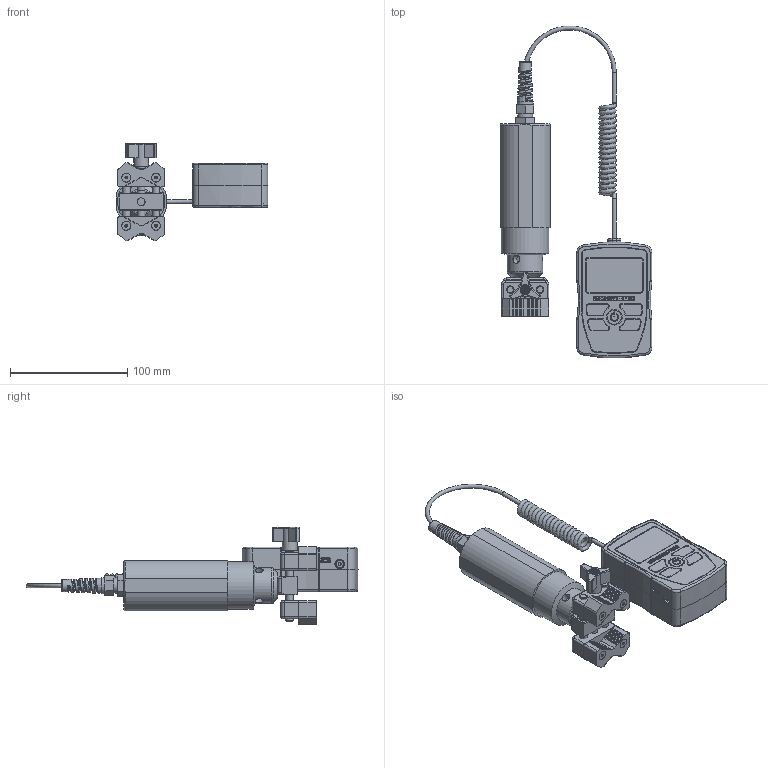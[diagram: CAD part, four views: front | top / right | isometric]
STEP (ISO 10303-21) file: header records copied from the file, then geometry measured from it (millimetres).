
FILE_DESCRIPTION((''),'2;1');
FILE_NAME('F:\CAD files\Itr\3D MARKETING MODELS\TORQUE GAUGES\TT03C\TT03C_12_50_100.stp','2017-06-01T10:41:06',('mlampen'),(''),'Autodesk Inventor 2010','Autodesk Inventor 2010','');
FILE_SCHEMA(('AUTOMOTIVE_DESIGN { 1 0 10303 214 1 1 1 1 }'));
Length unit declared in the file: inch
Products named in the file (6): Assembly1; Part2; Part4; Part6; Part8; Part10
Assembly tree (5 placements, depth 2):
  Assembly1
    Part2
    Part4
    Part6
    Part8
    Part10
Bounding box: 129.78 x 283.75 x 83.13 mm (x, y, z)
Volume: 471665.4 mm3; surface area: 83831.2 mm2
Topology: 9 solids, 9 shells, 1359 faces, 3366 edges, 2150 vertices
Faces by surface type: plane 719, cylinder 349, bspline 134, cone 104, torus 47, sphere 6
Full cylindrical faces by diameter (mm): 0.127 x1, 0.381 x1, 0.635 x1, 0.889 x1, 1.041 x12, 1.143 x1, 1.397 x1, 1.651 x1, 1.905 x1, 2.159 x1, 2.413 x1, 2.5 x1, 2.667 x1, 2.921 x1, 3.175 x1, 3.429 x4, 3.505 x4, 3.683 x1, 3.81 x9, 3.937 x1, 4 x2, 4.191 x1, 4.445 x1, 4.699 x1, 4.826 x3, 4.953 x1, 5.207 x1, 5.461 x1, 5.486 x2, 5.715 x1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
Entity records: 45708 total; most frequent: CARTESIAN_POINT 14729, ORIENTED_EDGE 6208, DIRECTION 6192, EDGE_CURVE 3104, AXIS2_PLACEMENT_3D 2170, VERTEX_POINT 2076, VECTOR 1852, LINE 1852
